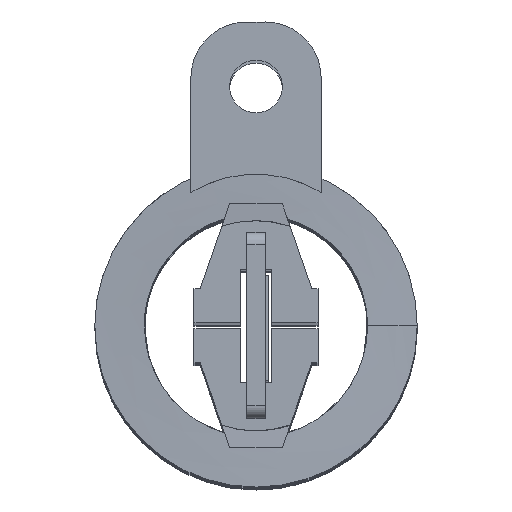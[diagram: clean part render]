
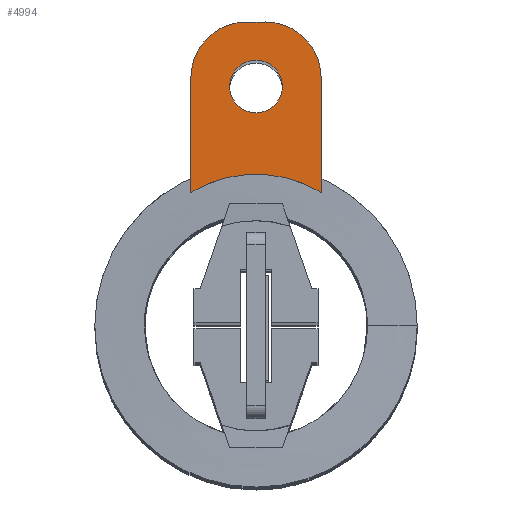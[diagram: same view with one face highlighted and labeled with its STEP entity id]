
A CAD part, top view. The second image highlights one B-rep face of the part: STEP entity #4994.
In plain terms, the highlighted planar face has unit normal (0, 0, 1).
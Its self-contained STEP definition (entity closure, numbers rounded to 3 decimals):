
#63=FACE_BOUND('',#926,.T.);
#434=PLANE('',#5486);
#678=FACE_OUTER_BOUND('',#925,.T.);
#925=EDGE_LOOP('',(#4320,#4321,#4322,#4323,#4324,#4325));
#926=EDGE_LOOP('',(#4326));
#1295=LINE('',#19109,#1666);
#1296=LINE('',#19113,#1667);
#1297=LINE('',#19116,#1668);
#1666=VECTOR('',#6565,10.);
#1667=VECTOR('',#6568,10.);
#1668=VECTOR('',#6571,10.);
#1744=CIRCLE('',#5485,20.1);
#1745=CIRCLE('',#5487,9.);
#1746=CIRCLE('',#5488,9.);
#1747=CIRCLE('',#5489,4.25);
#2213=VERTEX_POINT('',#19102);
#2214=VERTEX_POINT('',#19104);
#2215=VERTEX_POINT('',#19108);
#2216=VERTEX_POINT('',#19110);
#2217=VERTEX_POINT('',#19112);
#2218=VERTEX_POINT('',#19114);
#2219=VERTEX_POINT('',#19117);
#2917=EDGE_CURVE('',#2214,#2213,#1744,.T.);
#2919=EDGE_CURVE('',#2215,#2213,#1295,.T.);
#2920=EDGE_CURVE('',#2216,#2215,#1745,.T.);
#2921=EDGE_CURVE('',#2217,#2216,#1296,.T.);
#2922=EDGE_CURVE('',#2218,#2217,#1746,.T.);
#2923=EDGE_CURVE('',#2214,#2218,#1297,.T.);
#2924=EDGE_CURVE('',#2219,#2219,#1747,.T.);
#4320=ORIENTED_EDGE('',*,*,#2917,.T.);
#4321=ORIENTED_EDGE('',*,*,#2919,.F.);
#4322=ORIENTED_EDGE('',*,*,#2920,.F.);
#4323=ORIENTED_EDGE('',*,*,#2921,.F.);
#4324=ORIENTED_EDGE('',*,*,#2922,.F.);
#4325=ORIENTED_EDGE('',*,*,#2923,.F.);
#4326=ORIENTED_EDGE('',*,*,#2924,.T.);
#4994=ADVANCED_FACE('',(#678,#63),#434,.T.);
#5485=AXIS2_PLACEMENT_3D('',#19105,#6560,#6561);
#5486=AXIS2_PLACEMENT_3D('',#19107,#6563,#6564);
#5487=AXIS2_PLACEMENT_3D('',#19111,#6566,#6567);
#5488=AXIS2_PLACEMENT_3D('',#19115,#6569,#6570);
#5489=AXIS2_PLACEMENT_3D('',#19118,#6572,#6573);
#6560=DIRECTION('center_axis',(0.,0.,-1.));
#6561=DIRECTION('ref_axis',(1.,0.,0.));
#6563=DIRECTION('center_axis',(0.,0.,1.));
#6564=DIRECTION('ref_axis',(1.,0.,0.));
#6565=DIRECTION('',(0.,-1.,0.));
#6566=DIRECTION('center_axis',(0.,0.,-1.));
#6567=DIRECTION('ref_axis',(0.707,0.707,0.));
#6568=DIRECTION('',(1.,0.,0.));
#6569=DIRECTION('center_axis',(0.,0.,-1.));
#6570=DIRECTION('ref_axis',(-0.707,0.707,0.));
#6571=DIRECTION('',(0.,1.,0.));
#6572=DIRECTION('center_axis',(0.,0.,-1.));
#6573=DIRECTION('ref_axis',(1.,0.,0.));
#19102=CARTESIAN_POINT('',(21.,0.,2.));
#19104=CARTESIAN_POINT('',(0.,0.,2.));
#19105=CARTESIAN_POINT('Origin',(10.5,-17.139,2.));
#19107=CARTESIAN_POINT('Origin',(10.5,13.75,2.));
#19108=CARTESIAN_POINT('',(21.,18.5,2.));
#19109=CARTESIAN_POINT('',(21.,0.,2.));
#19110=CARTESIAN_POINT('',(12.,27.5,2.));
#19111=CARTESIAN_POINT('Origin',(12.,18.5,2.));
#19112=CARTESIAN_POINT('',(9.,27.5,2.));
#19113=CARTESIAN_POINT('',(21.,27.5,2.));
#19114=CARTESIAN_POINT('',(0.,18.5,2.));
#19115=CARTESIAN_POINT('Origin',(9.,18.5,2.));
#19116=CARTESIAN_POINT('',(0.,27.5,2.));
#19117=CARTESIAN_POINT('',(6.25,17.1,2.));
#19118=CARTESIAN_POINT('Origin',(10.5,17.1,2.));
